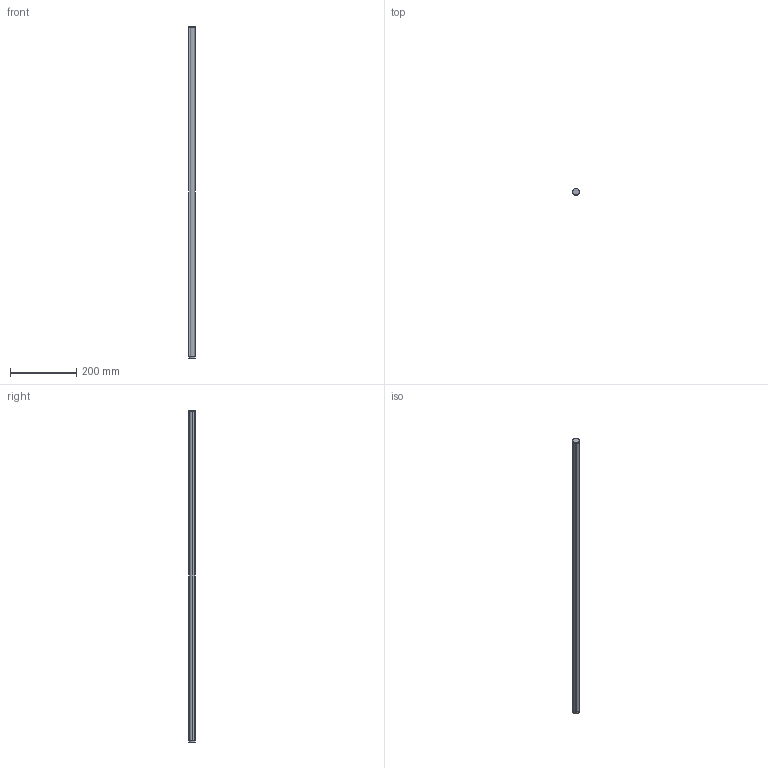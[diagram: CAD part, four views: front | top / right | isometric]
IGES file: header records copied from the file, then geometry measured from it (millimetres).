
Start section: SolidWorks IGES file using analytic representation for surfaces
Global section: file name: C:\Users\Centika\Documents\Rakumba Internship\Solidworks Lightweight\Cilon_Rail_1000.IGS; native system: SolidWorks 2017; preprocessor: SolidWorks 2017; author: Centika; date: 181204.140430; units: millimetre
Bounding box: 20 x 20 x 1000 mm (x, y, z)
Surface area: 173375.2 mm2 (no closed solid volume)
Topology: 0 solids, 0 shells, 116 faces, 1124 edges, 1124 vertices
Faces by surface type: revolution 68, bspline 48
